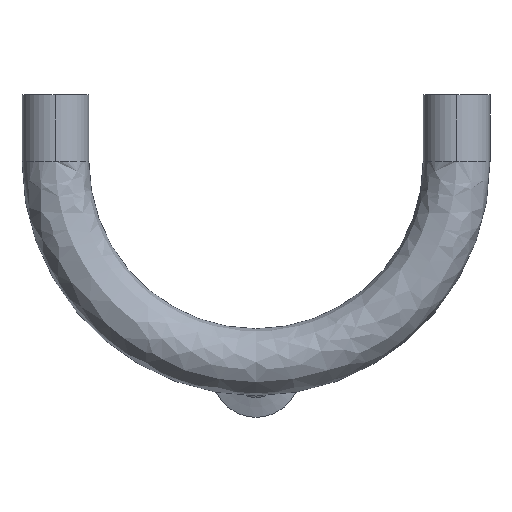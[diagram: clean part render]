
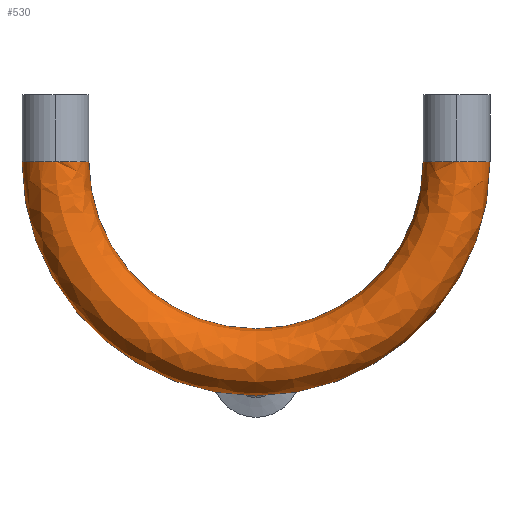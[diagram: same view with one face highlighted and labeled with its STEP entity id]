
A CAD part, top view. The second image highlights one B-rep face of the part: STEP entity #530.
In plain terms, the highlighted free-form (B-spline) face has degree [3, 3] with [4, 4] control points.
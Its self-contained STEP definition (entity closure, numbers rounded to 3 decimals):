
#24 = CARTESIAN_POINT ( 'NONE',  ( 66.675, 57.15, 19.05 ) ) ;
#66 = AXIS2_PLACEMENT_3D ( 'NONE', #1283, #1278, #1274 ) ;
#85 = DIRECTION ( 'NONE',  ( 0., 0., -1. ) ) ;
#95 = CARTESIAN_POINT ( 'NONE',  ( 0., 57.15, 0. ) ) ;
#115 = ORIENTED_EDGE ( 'NONE', *, *, #1349, .T. ) ;
#122 = CARTESIAN_POINT ( 'NONE',  ( -57.15, 57.15, 9.525 ) ) ;
#131 = AXIS2_PLACEMENT_3D ( 'NONE', #967, #1256, #424 ) ;
#163 = CARTESIAN_POINT ( 'NONE',  ( -66.675, -76.2, 19.05 ) ) ;
#188 = ORIENTED_EDGE ( 'NONE', *, *, #433, .T. ) ;
#192 = CIRCLE ( 'NONE', #1222, 66.675 ) ;
#201 = DIRECTION ( 'NONE',  ( -1., 0., 0. ) ) ;
#203 = CARTESIAN_POINT ( 'NONE',  ( 0., 57.15, 0. ) ) ;
#234 = EDGE_CURVE ( 'NONE', #1234, #1608, #476, .T. ) ;
#271 = CIRCLE ( 'NONE', #785, 9.525 ) ;
#274 = ORIENTED_EDGE ( 'NONE', *, *, #234, .T. ) ;
#284 = CARTESIAN_POINT ( 'NONE',  ( 47.625, 57.15, 19.05 ) ) ;
#303 = FACE_OUTER_BOUND ( 'NONE', #718, .T. ) ;
#334 = DIRECTION ( 'NONE',  ( -1., 0., 0. ) ) ;
#372 = DIRECTION ( 'NONE',  ( 0., -1., 0. ) ) ;
#412 = CARTESIAN_POINT ( 'NONE',  ( -47.625, -38.1, 19.05 ) ) ;
#416 = ORIENTED_EDGE ( 'NONE', *, *, #1172, .F. ) ;
#424 = DIRECTION ( 'NONE',  ( -1., 0., 0. ) ) ;
#431 = VERTEX_POINT ( 'NONE', #641 ) ;
#433 = EDGE_CURVE ( 'NONE', #1631, #1091, #698, .T. ) ;
#452 = ORIENTED_EDGE ( 'NONE', *, *, #588, .T. ) ;
#476 = CIRCLE ( 'NONE', #131, 9.525 ) ;
#494 = DIRECTION ( 'NONE',  ( 0., 0., -1. ) ) ;
#530 = ADVANCED_FACE ( 'NONE', ( #303 ), #1126, .T. ) ;
#549 = CARTESIAN_POINT ( 'NONE',  ( 47.625, 57.15, 0. ) ) ;
#576 = CIRCLE ( 'NONE', #66, 9.525 ) ;
#588 = EDGE_CURVE ( 'NONE', #695, #1631, #576, .T. ) ;
#630 = CARTESIAN_POINT ( 'NONE',  ( 47.625, 57.15, 0. ) ) ;
#641 = CARTESIAN_POINT ( 'NONE',  ( 0., -9.525, 0. ) ) ;
#669 = AXIS2_PLACEMENT_3D ( 'NONE', #203, #1000, #1633 ) ;
#683 = CIRCLE ( 'NONE', #1199, 66.675 ) ;
#688 = CARTESIAN_POINT ( 'NONE',  ( -47.625, -38.1, 0. ) ) ;
#695 = VERTEX_POINT ( 'NONE', #912 ) ;
#698 = CIRCLE ( 'NONE', #1095, 9.525 ) ;
#718 = EDGE_LOOP ( 'NONE', ( #188, #115, #274, #1217, #834, #416, #452 ) ) ;
#731 = EDGE_CURVE ( 'NONE', #431, #1575, #683, .T. ) ;
#740 = DIRECTION ( 'NONE',  ( 0., -1., 0. ) ) ;
#755 = DIRECTION ( 'NONE',  ( -1., 0., 0. ) ) ;
#785 = AXIS2_PLACEMENT_3D ( 'NONE', #883, #740, #755 ) ;
#804 = CARTESIAN_POINT ( 'NONE',  ( -66.675, 57.15, 0. ) ) ;
#834 = ORIENTED_EDGE ( 'NONE', *, *, #731, .F. ) ;
#883 = CARTESIAN_POINT ( 'NONE',  ( -57.15, 57.15, 0. ) ) ;
#912 = CARTESIAN_POINT ( 'NONE',  ( 66.675, 57.15, 0. ) ) ;
#953 = CARTESIAN_POINT ( 'NONE',  ( 66.675, -76.2, 19.05 ) ) ;
#967 = CARTESIAN_POINT ( 'NONE',  ( -57.15, 57.15, 0. ) ) ;
#999 = CIRCLE ( 'NONE', #669, 47.625 ) ;
#1000 = DIRECTION ( 'NONE',  ( 0., 0., -1. ) ) ;
#1071 = CARTESIAN_POINT ( 'NONE',  ( 57.15, 57.15, 0. ) ) ;
#1085 = CARTESIAN_POINT ( 'NONE',  ( -66.675, 57.15, 19.05 ) ) ;
#1091 = VERTEX_POINT ( 'NONE', #630 ) ;
#1092 = EDGE_CURVE ( 'NONE', #1608, #1575, #271, .T. ) ;
#1095 = AXIS2_PLACEMENT_3D ( 'NONE', #1071, #372, #1557 ) ;
#1126 =( BOUNDED_SURFACE ( )  B_SPLINE_SURFACE ( 3, 3, ( 
 ( #1692, #1319, #1583, #804 ),
 ( #24, #953, #163, #1085 ),
 ( #284, #1200, #412, #1327 ),
 ( #549, #1457, #688, #1589 ) ),
 .UNSPECIFIED., .F., .F., .F. ) 
 B_SPLINE_SURFACE_WITH_KNOTS ( ( 4, 4 ),
 ( 4, 4 ),
 ( 0., 1. ),
 ( 0., 1. ),
 .UNSPECIFIED. ) 
 GEOMETRIC_REPRESENTATION_ITEM ( )  RATIONAL_B_SPLINE_SURFACE ( (
 ( 1., 0.333, 0.333, 1.),
 ( 0.333, 0.111, 0.111, 0.333),
 ( 0.333, 0.111, 0.111, 0.333),
 ( 1., 0.333, 0.333, 1.) ) ) 
 REPRESENTATION_ITEM ( '' )  SURFACE ( )  );
#1172 = EDGE_CURVE ( 'NONE', #695, #431, #192, .T. ) ;
#1199 = AXIS2_PLACEMENT_3D ( 'NONE', #95, #85, #201 ) ;
#1200 = CARTESIAN_POINT ( 'NONE',  ( 47.625, -38.1, 19.05 ) ) ;
#1203 = CARTESIAN_POINT ( 'NONE',  ( -47.625, 57.15, 0. ) ) ;
#1217 = ORIENTED_EDGE ( 'NONE', *, *, #1092, .T. ) ;
#1222 = AXIS2_PLACEMENT_3D ( 'NONE', #1414, #494, #334 ) ;
#1234 = VERTEX_POINT ( 'NONE', #1203 ) ;
#1256 = DIRECTION ( 'NONE',  ( 0., -1., 0. ) ) ;
#1274 = DIRECTION ( 'NONE',  ( 1., 0., 0. ) ) ;
#1278 = DIRECTION ( 'NONE',  ( 0., -1., 0. ) ) ;
#1283 = CARTESIAN_POINT ( 'NONE',  ( 57.15, 57.15, 0. ) ) ;
#1319 = CARTESIAN_POINT ( 'NONE',  ( 66.675, -76.2, 0. ) ) ;
#1327 = CARTESIAN_POINT ( 'NONE',  ( -47.625, 57.15, 19.05 ) ) ;
#1349 = EDGE_CURVE ( 'NONE', #1091, #1234, #999, .T. ) ;
#1414 = CARTESIAN_POINT ( 'NONE',  ( 0., 57.15, 0. ) ) ;
#1457 = CARTESIAN_POINT ( 'NONE',  ( 47.625, -38.1, 0. ) ) ;
#1557 = DIRECTION ( 'NONE',  ( 1., 0., 0. ) ) ;
#1575 = VERTEX_POINT ( 'NONE', #1675 ) ;
#1583 = CARTESIAN_POINT ( 'NONE',  ( -66.675, -76.2, 0. ) ) ;
#1589 = CARTESIAN_POINT ( 'NONE',  ( -47.625, 57.15, 0. ) ) ;
#1608 = VERTEX_POINT ( 'NONE', #122 ) ;
#1631 = VERTEX_POINT ( 'NONE', #1705 ) ;
#1633 = DIRECTION ( 'NONE',  ( -1., 0., 0. ) ) ;
#1675 = CARTESIAN_POINT ( 'NONE',  ( -66.675, 57.15, 0. ) ) ;
#1692 = CARTESIAN_POINT ( 'NONE',  ( 66.675, 57.15, 0. ) ) ;
#1705 = CARTESIAN_POINT ( 'NONE',  ( 57.15, 57.15, 9.525 ) ) ;
